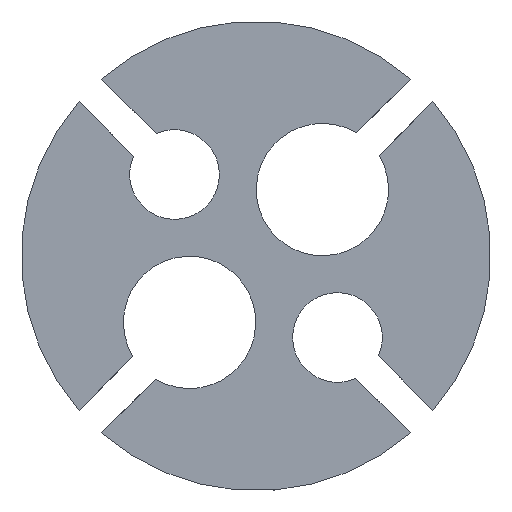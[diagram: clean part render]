
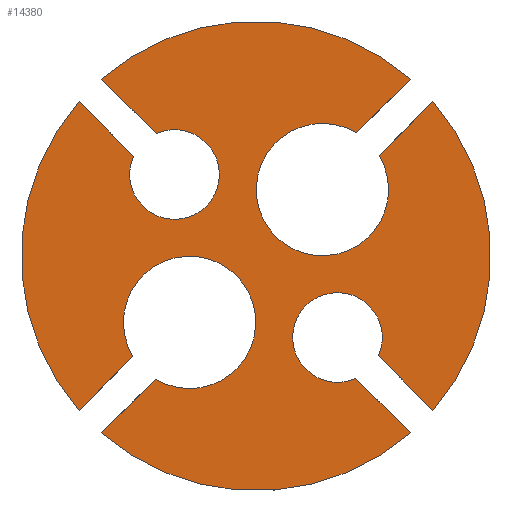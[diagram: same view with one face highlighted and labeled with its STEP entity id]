
A CAD part, front view. The second image highlights one B-rep face of the part: STEP entity #14380.
In plain terms, the highlighted planar face has unit normal (0, -1, 0).
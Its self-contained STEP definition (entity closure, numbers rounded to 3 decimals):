
#900=CARTESIAN_POINT('',(-51.86,-3.516,
241.505));
#910=DIRECTION('',(0.,1.,0.));
#920=DIRECTION('',(-0.966,0.,
-0.259));
#930=AXIS2_PLACEMENT_3D('',#900,#910,#920);
#940=CIRCLE('',#930,11.);
#950=CARTESIAN_POINT('',(-53.976,-3.516,
252.299));
#960=VERTEX_POINT('',#950);
#970=CARTESIAN_POINT('',(-41.454,-3.516,
245.07));
#980=VERTEX_POINT('',#970);
#990=EDGE_CURVE('',#960,#980,#940,.T.);
#1440=CARTESIAN_POINT('',(-62.655,-3.516,
239.389));
#1450=VERTEX_POINT('',#1440);
#1460=CARTESIAN_POINT('',(-55.425,-3.516,
251.911));
#1470=VERTEX_POINT('',#1460);
#1480=EDGE_CURVE('',#1450,#1470,#940,.T.);
#2620=CARTESIAN_POINT('',(-47.61,-3.516,
242.644));
#2630=DIRECTION('',(0.,1.,0.));
#2640=DIRECTION('',(0.866,0.,
-0.5));
#2650=AXIS2_PLACEMENT_3D('',#2620,#2630,#2640);
#2660=CIRCLE('',#2650,3.1);
#2670=CARTESIAN_POINT('',(-44.511,-3.516,
242.698));
#2680=VERTEX_POINT('',#2670);
#2690=CARTESIAN_POINT('',(-44.899,-3.516,
244.146));
#2700=VERTEX_POINT('',#2690);
#2710=EDGE_CURVE('',#2680,#2700,#2660,.T.);
#4320=CARTESIAN_POINT('',(-56.11,-3.516,
240.366));
#4330=DIRECTION('',(0.,-1.,0.));
#4340=DIRECTION('',(-0.5,0.,
-0.866));
#4350=AXIS2_PLACEMENT_3D('',#4320,#4330,#4340);
#4360=CIRCLE('',#4350,3.1);
#4370=CARTESIAN_POINT('',(-58.822,-3.516,
238.863));
#4380=VERTEX_POINT('',#4370);
#4390=CARTESIAN_POINT('',(-59.21,-3.516,
240.312));
#4400=VERTEX_POINT('',#4390);
#4410=EDGE_CURVE('',#4380,#4400,#4360,.T.);
#7660=CARTESIAN_POINT('',(-50.679,-3.516,
234.2));
#7670=VERTEX_POINT('',#7660);
#7700=CARTESIAN_POINT('',(-50.463,-3.516,
236.289));
#7710=DIRECTION('',(0.,1.,0.));
#7720=DIRECTION('',(-0.866,0.,
0.5));
#7730=AXIS2_PLACEMENT_3D('',#7700,#7710,#7720);
#7740=CIRCLE('',#7730,2.1);
#7750=CARTESIAN_POINT('',(-49.23,-3.516,
234.588));
#7760=VERTEX_POINT('',#7750);
#7770=EDGE_CURVE('',#7670,#7760,#7740,.T.);
#7880=CARTESIAN_POINT('',(-41.066,-3.516,
243.621));
#7890=VERTEX_POINT('',#7880);
#7900=CARTESIAN_POINT('',(-48.295,-3.516,
231.098));
#7910=VERTEX_POINT('',#7900);
#7920=EDGE_CURVE('',#7890,#7910,#940,.T.);
#13600=CARTESIAN_POINT('',(-51.86,-3.516,
241.505));
#13610=DIRECTION('',(0.,1.,0.));
#13620=DIRECTION('',(-0.966,0.,
-0.259));
#13630=AXIS2_PLACEMENT_3D('',#13600,#13610,#13620);
#13640=PLANE('',#13630);
#13650=ORIENTED_EDGE('',*,*,#990,.F.);
#13660=CARTESIAN_POINT('',(-48.619,-3.516,
243.15));
#13670=DIRECTION('',(0.966,0.,
0.259));
#13680=VECTOR('',#13670,1.);
#13690=LINE('',#13660,#13680);
#13700=EDGE_CURVE('',#2700,#980,#13690,.T.);
#13710=ORIENTED_EDGE('',*,*,#13700,.T.);
#13720=ORIENTED_EDGE('',*,*,#2710,.T.);
#13730=CARTESIAN_POINT('',(-48.231,-3.516,
241.701));
#13740=DIRECTION('',(-0.966,0.,
-0.259));
#13750=VECTOR('',#13740,1.);
#13760=LINE('',#13730,#13750);
#13770=EDGE_CURVE('',#7890,#2680,#13760,.T.);
#13780=ORIENTED_EDGE('',*,*,#13770,.T.);
#13790=ORIENTED_EDGE('',*,*,#7920,.F.);
#13800=CARTESIAN_POINT('',(-48.443,-3.516,
231.65));
#13810=DIRECTION('',(0.259,0.,
-0.966));
#13820=VECTOR('',#13810,1.);
#13830=LINE('',#13800,#13820);
#13840=EDGE_CURVE('',#7760,#7910,#13830,.T.);
#13850=ORIENTED_EDGE('',*,*,#13840,.T.);
#13860=ORIENTED_EDGE('',*,*,#7770,.T.);
#13870=CARTESIAN_POINT('',(-49.892,-3.516,
231.262));
#13880=DIRECTION('',(-0.259,0.,
0.966));
#13890=VECTOR('',#13880,1.);
#13900=LINE('',#13870,#13890);
#13910=CARTESIAN_POINT('',(-49.744,-3.516,
230.71));
#13920=VERTEX_POINT('',#13910);
#13930=EDGE_CURVE('',#13920,#7670,#13900,.T.);
#13940=ORIENTED_EDGE('',*,*,#13930,.T.);
#13950=CARTESIAN_POINT('',(-62.267,-3.516,
237.94));
#13960=VERTEX_POINT('',#13950);
#13970=EDGE_CURVE('',#13920,#13960,#940,.T.);
#13980=ORIENTED_EDGE('',*,*,#13970,.F.);
#13990=CARTESIAN_POINT('',(-48.231,-3.516,
241.701));
#14000=DIRECTION('',(-0.966,0.,
-0.259));
#14010=VECTOR('',#14000,1.);
#14020=LINE('',#13990,#14010);
#14030=EDGE_CURVE('',#4380,#13960,#14020,.T.);
#14040=ORIENTED_EDGE('',*,*,#14030,.T.);
#14050=ORIENTED_EDGE('',*,*,#4410,.F.);
#14060=CARTESIAN_POINT('',(-48.619,-3.516,
243.15));
#14070=DIRECTION('',(0.966,0.,
0.259));
#14080=VECTOR('',#14070,1.);
#14090=LINE('',#14060,#14080);
#14100=EDGE_CURVE('',#1450,#4400,#14090,.T.);
#14110=ORIENTED_EDGE('',*,*,#14100,.T.);
#14120=ORIENTED_EDGE('',*,*,#1480,.F.);
#14130=CARTESIAN_POINT('',(-49.892,-3.516,
231.262));
#14140=DIRECTION('',(-0.259,0.,
0.966));
#14150=VECTOR('',#14140,1.);
#14160=LINE('',#14130,#14150);
#14170=CARTESIAN_POINT('',(-54.49,-3.516,
248.421));
#14180=VERTEX_POINT('',#14170);
#14190=EDGE_CURVE('',#14180,#1470,#14160,.T.);
#14200=ORIENTED_EDGE('',*,*,#14190,.T.);
#14210=CARTESIAN_POINT('',(-53.258,-3.516,
246.721));
#14220=DIRECTION('',(0.,-1.,0.));
#14230=DIRECTION('',(-0.5,0.,
-0.866));
#14240=AXIS2_PLACEMENT_3D('',#14210,#14220,#14230);
#14250=CIRCLE('',#14240,2.1);
#14260=CARTESIAN_POINT('',(-53.041,-3.516,
248.81));
#14270=VERTEX_POINT('',#14260);
#14280=EDGE_CURVE('',#14180,#14270,#14250,.T.);
#14290=ORIENTED_EDGE('',*,*,#14280,.F.);
#14300=CARTESIAN_POINT('',(-48.443,-3.516,
231.65));
#14310=DIRECTION('',(0.259,0.,
-0.966));
#14320=VECTOR('',#14310,1.);
#14330=LINE('',#14300,#14320);
#14340=EDGE_CURVE('',#960,#14270,#14330,.T.);
#14350=ORIENTED_EDGE('',*,*,#14340,.T.);
#14360=EDGE_LOOP('',(#14350,#14290,#14200,#14120,#14110,#14050,#14040,
#13980,#13940,#13860,#13850,#13790,#13780,#13720,#13710,#13650));
#14370=FACE_OUTER_BOUND('',#14360,.T.);
#14380=ADVANCED_FACE('',(#14370),#13640,.F.);
